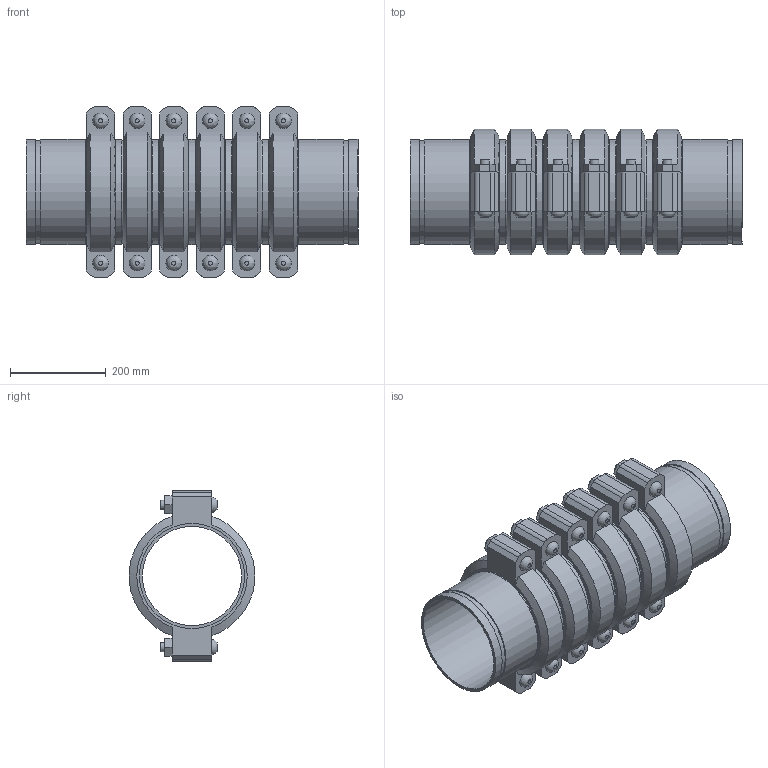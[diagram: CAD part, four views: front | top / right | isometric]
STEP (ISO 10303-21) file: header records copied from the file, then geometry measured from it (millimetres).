
FILE_DESCRIPTION(/* description */ ('VIC EXPANSION JOINT 6 COUPLINGS EXPANDED STYLE 155 (OGS)','CAx-IF Rec.Pracs.---Representation and Presentation of Product Manufacturing Information (PMI)---4.0---2014-10-13'),/* implementation_level */ '2;1');
FILE_NAME(/* name */ 'C:\Users\kkamble\AppData\Roaming\Autodesk\ApplicationPlugins\Victaulic.Temp\A6\Victaulic_IPS_Expansion Joint_Expanded_6 Couplings_Style 155 (OGS)_8 (200).stp',/* time_stamp */ '2021-06-27T00:05:11+02:00',/* author */ ('kkamble'),/* organization */ ('Victaulic'),/* preprocessor_version */ 'ST-DEVELOPER v17.2',/* originating_system */ 'Autodesk Inventor 2019',/* authorisation */ '');
FILE_SCHEMA (('AP242_MANAGED_MODEL_BASED_3D_ENGINEERING_MIM_LF { 1 0 10303 442 1 1 4 }'));
Length unit declared in the file: inch
Products named in the file (4): 155-08.0; Nipple-08.0; Nipple-08.0_1; 075-08.0
Assembly tree (13 placements, depth 2):
  155-08.0
    Nipple-08.0  x2
    Nipple-08.0_1  x5
    075-08.0  x6
Bounding box: 692.15 x 261.72 x 354.84 mm (x, y, z)
Volume: 10805553.8 mm3; surface area: 2027132 mm2
Topology: 13 solids, 25 shells, 426 faces, 1008 edges, 708 vertices
Faces by surface type: plane 258, cylinder 132, cone 24, bspline 12
Full cylindrical faces by diameter (mm): 19.05 x24, 21.209 x12, 206.985 x7, 212.725 x6, 214.401 x14, 219.075 x33
Entity records: 2817 total; most frequent: CARTESIAN_POINT 497, DIRECTION 469, ORIENTED_EDGE 386, EDGE_CURVE 193, AXIS2_PLACEMENT_3D 188, VERTEX_POINT 138, EDGE_LOOP 107, LINE 93
